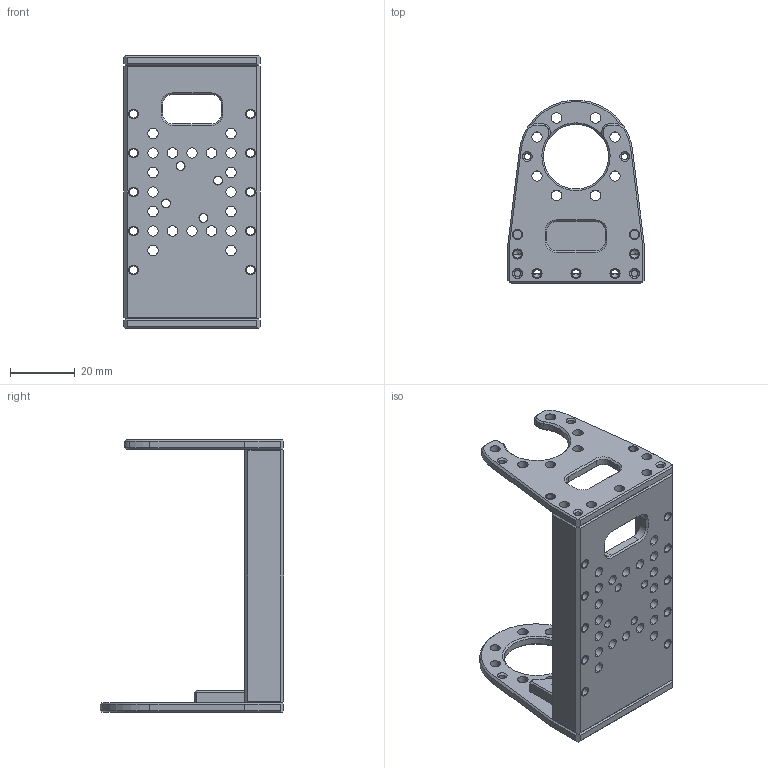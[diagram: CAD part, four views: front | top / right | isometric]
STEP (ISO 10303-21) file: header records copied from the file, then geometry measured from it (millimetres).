
FILE_DESCRIPTION((''),'2;1');
FILE_NAME('H_FRP42-H220_ASM','2016-02-29T',('kimdolyang'),(''),'PRO/ENGINEER BY PARAMETRIC TECHNOLOGY CORPORATION, 2013410','PRO/ENGINEER BY PARAMETRIC TECHNOLOGY CORPORATION, 2013410','');
FILE_SCHEMA(('CONFIG_CONTROL_DESIGN'));
Length unit declared in the file: millimetre
Products named in the file (4): HINGE_FRP42-H002; HINGE_FRP42-H020; HINGE_FRP42-H021; H_FRP42-H220_ASM
Assembly tree (3 placements, depth 2):
  H_FRP42-H220_ASM
    HINGE_FRP42-H002
    HINGE_FRP42-H020
    HINGE_FRP42-H021
Bounding box: 42 x 56.44 x 84 mm (x, y, z)
Volume: 26567.3 mm3; surface area: 21469.1 mm2
Topology: 3 solids, 25 shells, 478 faces, 1276 edges, 808 vertices
Faces by surface type: cylinder 238, plane 144, cone 96
Entity records: 15304 total; most frequent: DIRECTION 2830, CARTESIAN_POINT 2601, ORIENTED_EDGE 2412, EDGE_CURVE 1262, AXIS2_PLACEMENT_3D 1085, VERTEX_POINT 808, VECTOR 660, LINE 660
